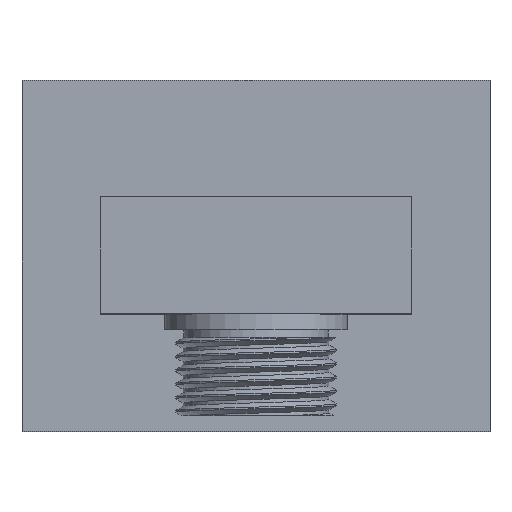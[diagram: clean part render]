
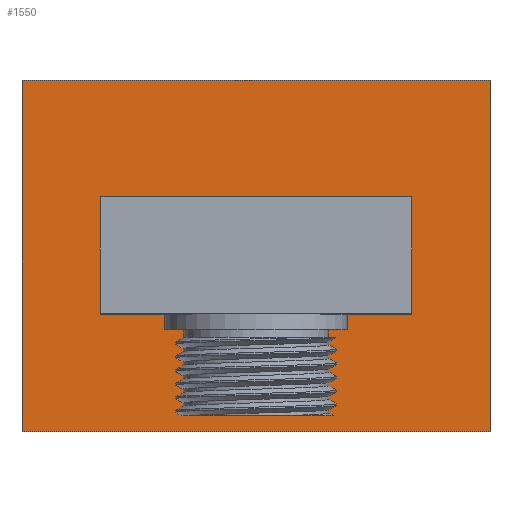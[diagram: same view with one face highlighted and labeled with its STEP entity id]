
A CAD part, top view. The second image highlights one B-rep face of the part: STEP entity #1550.
In plain terms, the highlighted planar face has unit normal (0, 0, 1).
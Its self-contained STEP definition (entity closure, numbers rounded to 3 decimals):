
#2 = CARTESIAN_POINT ( 'NONE',  ( 20., -7.5, 25.5 ) ) ;
#20 = CARTESIAN_POINT ( 'NONE',  ( 30., -22.5, 25.5 ) ) ;
#43 = LINE ( 'NONE', #2358, #2764 ) ;
#62 = LINE ( 'NONE', #20, #1171 ) ;
#223 = ORIENTED_EDGE ( 'NONE', *, *, #2107, .F. ) ;
#239 = CARTESIAN_POINT ( 'NONE',  ( -20., -7.5, 25.5 ) ) ;
#265 = VECTOR ( 'NONE', #2225, 1000. ) ;
#267 = ORIENTED_EDGE ( 'NONE', *, *, #513, .F. ) ;
#305 = VECTOR ( 'NONE', #1446, 1000. ) ;
#318 = AXIS2_PLACEMENT_3D ( 'NONE', #1659, #1840, #1673 ) ;
#349 = EDGE_CURVE ( 'NONE', #1857, #2190, #2538, .T. ) ;
#399 = CARTESIAN_POINT ( 'NONE',  ( -30., 22.5, 25.5 ) ) ;
#423 = LINE ( 'NONE', #1276, #305 ) ;
#513 = EDGE_CURVE ( 'NONE', #2190, #2694, #1094, .T. ) ;
#548 = LINE ( 'NONE', #1848, #265 ) ;
#617 = EDGE_CURVE ( 'NONE', #2694, #914, #2324, .T. ) ;
#681 = ORIENTED_EDGE ( 'NONE', *, *, #1720, .T. ) ;
#688 = CARTESIAN_POINT ( 'NONE',  ( 30., 22.5, 25.5 ) ) ;
#884 = DIRECTION ( 'NONE',  ( 0., 1., 0. ) ) ;
#914 = VERTEX_POINT ( 'NONE', #2574 ) ;
#918 = VECTOR ( 'NONE', #2297, 1000. ) ;
#919 = DIRECTION ( 'NONE',  ( 1., 0., 0. ) ) ;
#956 = VERTEX_POINT ( 'NONE', #2376 ) ;
#997 = ORIENTED_EDGE ( 'NONE', *, *, #1809, .T. ) ;
#1094 = LINE ( 'NONE', #1939, #1862 ) ;
#1152 = EDGE_LOOP ( 'NONE', ( #997, #681, #2170, #1797 ) ) ;
#1154 = CARTESIAN_POINT ( 'NONE',  ( -30., -22.5, 25.5 ) ) ;
#1171 = VECTOR ( 'NONE', #919, 1000. ) ;
#1191 = PLANE ( 'NONE',  #318 ) ;
#1276 = CARTESIAN_POINT ( 'NONE',  ( 20., 7.5, 25.5 ) ) ;
#1360 = VECTOR ( 'NONE', #884, 1000. ) ;
#1446 = DIRECTION ( 'NONE',  ( -1., 0., 0. ) ) ;
#1550 = ADVANCED_FACE ( 'NONE', ( #1814, #2712 ), #1191, .T. ) ;
#1659 = CARTESIAN_POINT ( 'NONE',  ( 0., 0., 25.5 ) ) ;
#1673 = DIRECTION ( 'NONE',  ( 1., 0., 0. ) ) ;
#1689 = VERTEX_POINT ( 'NONE', #399 ) ;
#1720 = EDGE_CURVE ( 'NONE', #956, #2652, #62, .T. ) ;
#1737 = DIRECTION ( 'NONE',  ( -1., 0., 0. ) ) ;
#1797 = ORIENTED_EDGE ( 'NONE', *, *, #2322, .T. ) ;
#1809 = EDGE_CURVE ( 'NONE', #1689, #956, #2632, .T. ) ;
#1814 = FACE_OUTER_BOUND ( 'NONE', #1152, .T. ) ;
#1840 = DIRECTION ( 'NONE',  ( 0., 0., 1. ) ) ;
#1848 = CARTESIAN_POINT ( 'NONE',  ( 30., -22.5, 25.5 ) ) ;
#1850 = ORIENTED_EDGE ( 'NONE', *, *, #349, .F. ) ;
#1857 = VERTEX_POINT ( 'NONE', #2592 ) ;
#1862 = VECTOR ( 'NONE', #2584, 1000. ) ;
#1939 = CARTESIAN_POINT ( 'NONE',  ( 20., -7.5, 25.5 ) ) ;
#2084 = CARTESIAN_POINT ( 'NONE',  ( -20., -7.5, 25.5 ) ) ;
#2107 = EDGE_CURVE ( 'NONE', #914, #1857, #423, .T. ) ;
#2144 = EDGE_LOOP ( 'NONE', ( #267, #1850, #223, #2611 ) ) ;
#2154 = CARTESIAN_POINT ( 'NONE',  ( 20., -7.5, 25.5 ) ) ;
#2162 = DIRECTION ( 'NONE',  ( 0., -1., 0. ) ) ;
#2170 = ORIENTED_EDGE ( 'NONE', *, *, #2651, .T. ) ;
#2190 = VERTEX_POINT ( 'NONE', #239 ) ;
#2225 = DIRECTION ( 'NONE',  ( 0., 1., 0. ) ) ;
#2297 = DIRECTION ( 'NONE',  ( 0., -1., 0. ) ) ;
#2322 = EDGE_CURVE ( 'NONE', #2357, #1689, #43, .T. ) ;
#2324 = LINE ( 'NONE', #2154, #1360 ) ;
#2357 = VERTEX_POINT ( 'NONE', #688 ) ;
#2358 = CARTESIAN_POINT ( 'NONE',  ( 30., 22.5, 25.5 ) ) ;
#2367 = VECTOR ( 'NONE', #2162, 1000. ) ;
#2376 = CARTESIAN_POINT ( 'NONE',  ( -30., -22.5, 25.5 ) ) ;
#2471 = CARTESIAN_POINT ( 'NONE',  ( 30., -22.5, 25.5 ) ) ;
#2538 = LINE ( 'NONE', #2084, #918 ) ;
#2574 = CARTESIAN_POINT ( 'NONE',  ( 20., 7.5, 25.5 ) ) ;
#2584 = DIRECTION ( 'NONE',  ( 1., 0., 0. ) ) ;
#2592 = CARTESIAN_POINT ( 'NONE',  ( -20., 7.5, 25.5 ) ) ;
#2611 = ORIENTED_EDGE ( 'NONE', *, *, #617, .F. ) ;
#2632 = LINE ( 'NONE', #1154, #2367 ) ;
#2651 = EDGE_CURVE ( 'NONE', #2652, #2357, #548, .T. ) ;
#2652 = VERTEX_POINT ( 'NONE', #2471 ) ;
#2694 = VERTEX_POINT ( 'NONE', #2 ) ;
#2712 = FACE_BOUND ( 'NONE', #2144, .T. ) ;
#2764 = VECTOR ( 'NONE', #1737, 1000. ) ;
